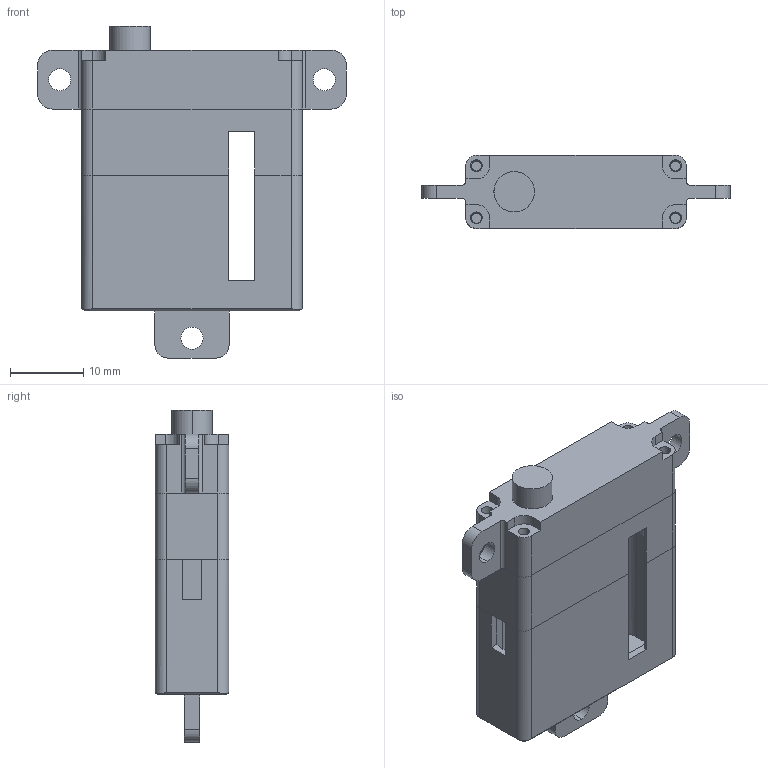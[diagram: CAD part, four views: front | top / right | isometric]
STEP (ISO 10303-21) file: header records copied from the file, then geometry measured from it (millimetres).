
FILE_DESCRIPTION (( 'STEP AP214' ), '1' );
FILE_NAME ('KST-X10_DM.STEP', '2021-01-11T01:09:55', ( '微软用户' ), ( '微软中国' ), 'SwSTEP 2.0', 'SolidWorks 2016', '' );
FILE_SCHEMA (( 'AUTOMOTIVE_DESIGN' ));
Length unit declared in the file: millimetre
Products named in the file (2): KST-X10_DM
Bounding box: 42 x 10 x 45.2 mm (x, y, z)
Volume: 4348.9 mm3; surface area: 7590.4 mm2
Topology: 4 solids, 4 shells, 259 faces, 726 edges, 482 vertices
Faces by surface type: plane 136, cylinder 118, cone 5
Entity records: 8601 total; most frequent: CARTESIAN_POINT 1552, DIRECTION 1507, ORIENTED_EDGE 1452, EDGE_CURVE 726, AXIS2_PLACEMENT_3D 541, VERTEX_POINT 482, LINE 425, VECTOR 425
